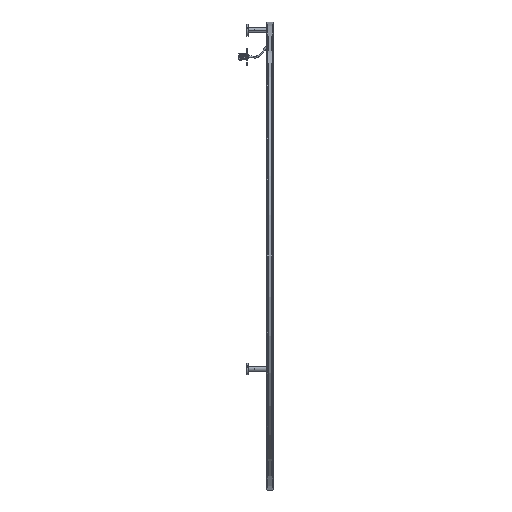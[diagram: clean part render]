
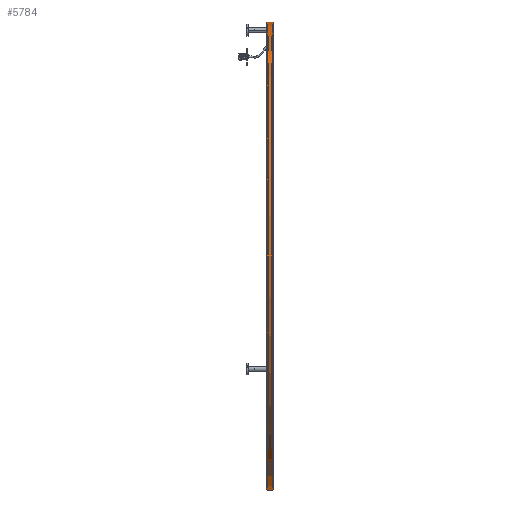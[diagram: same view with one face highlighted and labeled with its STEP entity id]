
A CAD part, left-side view. The second image highlights one B-rep face of the part: STEP entity #5784.
In plain terms, the highlighted cylindrical face has radius 900 mm (diameter 1800 mm), a partial arc.
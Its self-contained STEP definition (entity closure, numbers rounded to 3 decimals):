
#688 = VERTEX_POINT ( 'NONE', #25494 ) ;
#962 = VERTEX_POINT ( 'NONE', #28583 ) ;
#1030 = LINE ( 'NONE', #21538, #9546 ) ;
#1302 = EDGE_CURVE ( 'NONE', #962, #7010, #1030, .T. ) ;
#1385 = ORIENTED_EDGE ( 'NONE', *, *, #12428, .T. ) ;
#3341 = EDGE_CURVE ( 'NONE', #6634, #7010, #18136, .T. ) ;
#4240 = CARTESIAN_POINT ( 'NONE',  ( 0., -10.2, -900. ) ) ;
#5244 = ORIENTED_EDGE ( 'NONE', *, *, #10096, .F. ) ;
#5595 = ORIENTED_EDGE ( 'NONE', *, *, #1302, .T. ) ;
#5784 = ADVANCED_FACE ( 'NONE', ( #10348 ), #20511, .T. ) ;
#5973 = DIRECTION ( 'NONE',  ( 0., 0., -1. ) ) ;
#6422 = CARTESIAN_POINT ( 'NONE',  ( 0., 0., -900. ) ) ;
#6634 = VERTEX_POINT ( 'NONE', #4240 ) ;
#7010 = VERTEX_POINT ( 'NONE', #31447 ) ;
#7835 = CARTESIAN_POINT ( 'NONE',  ( 0., 0., 0. ) ) ;
#9302 = AXIS2_PLACEMENT_3D ( 'NONE', #7835, #18008, #19854 ) ;
#9546 = VECTOR ( 'NONE', #11199, 1000. ) ;
#10096 = EDGE_CURVE ( 'NONE', #688, #6634, #29272, .T. ) ;
#10348 = FACE_OUTER_BOUND ( 'NONE', #29724, .T. ) ;
#11199 = DIRECTION ( 'NONE',  ( 0., -1., 0. ) ) ;
#11313 = DIRECTION ( 'NONE',  ( 0., -1., 0. ) ) ;
#12308 = CARTESIAN_POINT ( 'NONE',  ( 0., -10.2, 0. ) ) ;
#12428 = EDGE_CURVE ( 'NONE', #688, #962, #29420, .T. ) ;
#15032 = AXIS2_PLACEMENT_3D ( 'NONE', #28816, #11313, #5973 ) ;
#18008 = DIRECTION ( 'NONE',  ( 0., -1., 0. ) ) ;
#18136 = CIRCLE ( 'NONE', #20285, 900. ) ;
#19854 = DIRECTION ( 'NONE',  ( 0., 0., -1. ) ) ;
#20285 = AXIS2_PLACEMENT_3D ( 'NONE', #12308, #24340, #22314 ) ;
#20511 = CYLINDRICAL_SURFACE ( 'NONE', #9302, 900. ) ;
#21538 = CARTESIAN_POINT ( 'NONE',  ( 0., 0., 900. ) ) ;
#22314 = DIRECTION ( 'NONE',  ( 0., 0., -1. ) ) ;
#24270 = DIRECTION ( 'NONE',  ( 0., -1., 0. ) ) ;
#24340 = DIRECTION ( 'NONE',  ( 0., -1., 0. ) ) ;
#25377 = VECTOR ( 'NONE', #24270, 1000. ) ;
#25494 = CARTESIAN_POINT ( 'NONE',  ( 0., 12.2, -900. ) ) ;
#28583 = CARTESIAN_POINT ( 'NONE',  ( 0., 12.2, 900. ) ) ;
#28816 = CARTESIAN_POINT ( 'NONE',  ( 0., 12.2, 0. ) ) ;
#29272 = LINE ( 'NONE', #6422, #25377 ) ;
#29420 = CIRCLE ( 'NONE', #15032, 900. ) ;
#29724 = EDGE_LOOP ( 'NONE', ( #1385, #5595, #31776, #5244 ) ) ;
#31447 = CARTESIAN_POINT ( 'NONE',  ( 0., -10.2, 900. ) ) ;
#31776 = ORIENTED_EDGE ( 'NONE', *, *, #3341, .F. ) ;
